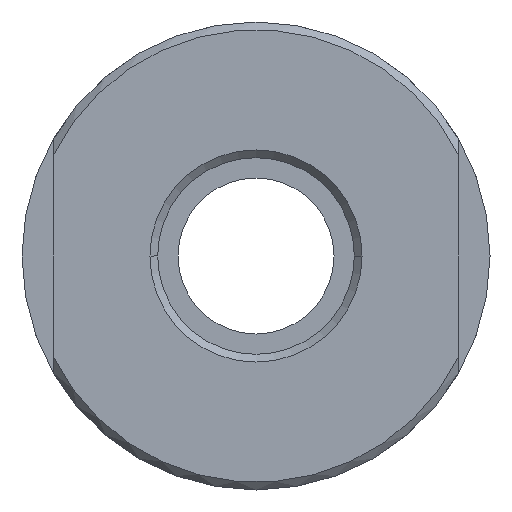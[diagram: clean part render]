
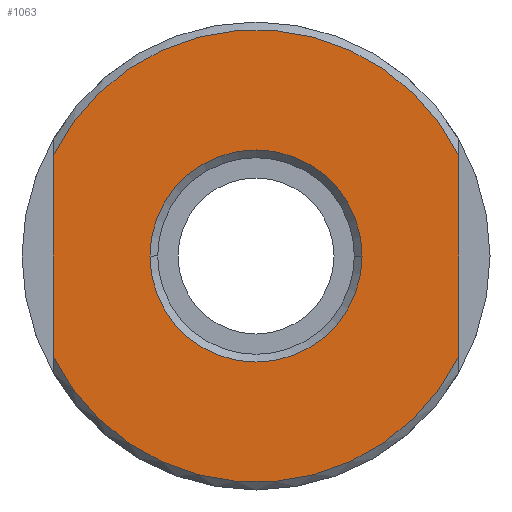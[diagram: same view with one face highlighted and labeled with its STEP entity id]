
A CAD part, left-side view. The second image highlights one B-rep face of the part: STEP entity #1063.
In plain terms, the highlighted planar face has unit normal (-1, 0, 0).
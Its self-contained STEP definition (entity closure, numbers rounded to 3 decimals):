
#82=CARTESIAN_POINT('Vertex',(-6.,13.,-6.423)) ;
#85=CARTESIAN_POINT('Line Origine',(-6.,13.,0.)) ;
#89=CARTESIAN_POINT('Vertex',(-6.,13.,6.423)) ;
#121=CARTESIAN_POINT('Axis2P3D Location',(-6.,0.,0.)) ;
#125=CARTESIAN_POINT('Vertex',(-6.,-13.,6.423)) ;
#167=CARTESIAN_POINT('Line Origine',(-6.,-13.,0.)) ;
#171=CARTESIAN_POINT('Vertex',(-6.,-13.,-6.423)) ;
#937=CARTESIAN_POINT('Axis2P3D Location',(-6.,0.,0.)) ;
#1034=CARTESIAN_POINT('Axis2P3D Location',(-6.,0.,0.)) ;
#1045=CARTESIAN_POINT('Axis2P3D Location',(-6.,0.,0.)) ;
#1049=CARTESIAN_POINT('Vertex',(-6.,-6.8,0.)) ;
#1051=CARTESIAN_POINT('Vertex',(-6.,6.8,0.)) ;
#1054=CARTESIAN_POINT('Axis2P3D Location',(-6.,0.,0.)) ;
#87=VECTOR('Line Direction',#86,1.) ;
#169=VECTOR('Line Direction',#168,1.) ;
#86=DIRECTION('Vector Direction',(0.,0.,-1.)) ;
#122=DIRECTION('Axis2P3D Direction',(-1.,0.,0.)) ;
#168=DIRECTION('Vector Direction',(0.,0.,-1.)) ;
#938=DIRECTION('Axis2P3D Direction',(-1.,0.,0.)) ;
#1035=DIRECTION('Axis2P3D Direction',(-1.,0.,0.)) ;
#1036=DIRECTION('Axis2P3D XDirection',(0.,-1.,0.)) ;
#1046=DIRECTION('Axis2P3D Direction',(-1.,0.,0.)) ;
#1055=DIRECTION('Axis2P3D Direction',(-1.,0.,0.)) ;
#123=AXIS2_PLACEMENT_3D('Circle Axis2P3D',#121,#122,$) ;
#939=AXIS2_PLACEMENT_3D('Circle Axis2P3D',#937,#938,$) ;
#1037=AXIS2_PLACEMENT_3D('Plane Axis2P3D',#1034,#1035,#1036) ;
#1047=AXIS2_PLACEMENT_3D('Circle Axis2P3D',#1045,#1046,$) ;
#1056=AXIS2_PLACEMENT_3D('Circle Axis2P3D',#1054,#1055,$) ;
#88=LINE('Line',#85,#87) ;
#170=LINE('Line',#167,#169) ;
#124=CIRCLE('generated circle',#123,14.5) ;
#940=CIRCLE('generated circle',#939,14.5) ;
#1048=CIRCLE('generated circle',#1047,6.8) ;
#1057=CIRCLE('generated circle',#1056,6.8) ;
#1038=PLANE('',#1037) ;
#1062=FACE_BOUND('',#1059,.T.) ;
#91=EDGE_CURVE('',#90,#83,#88,.T.) ;
#127=EDGE_CURVE('',#126,#90,#124,.T.) ;
#173=EDGE_CURVE('',#126,#172,#170,.T.) ;
#941=EDGE_CURVE('',#83,#172,#940,.T.) ;
#1053=EDGE_CURVE('',#1050,#1052,#1048,.T.) ;
#1058=EDGE_CURVE('',#1052,#1050,#1057,.T.) ;
#1039=EDGE_LOOP('',(#1040,#1041,#1042,#1043)) ;
#1059=EDGE_LOOP('',(#1060,#1061)) ;
#1040=ORIENTED_EDGE('',*,*,#173,.F.) ;
#1041=ORIENTED_EDGE('',*,*,#127,.T.) ;
#1042=ORIENTED_EDGE('',*,*,#91,.T.) ;
#1043=ORIENTED_EDGE('',*,*,#941,.T.) ;
#1060=ORIENTED_EDGE('',*,*,#1053,.F.) ;
#1061=ORIENTED_EDGE('',*,*,#1058,.F.) ;
#83=VERTEX_POINT('',#82) ;
#90=VERTEX_POINT('',#89) ;
#126=VERTEX_POINT('',#125) ;
#172=VERTEX_POINT('',#171) ;
#1050=VERTEX_POINT('',#1049) ;
#1052=VERTEX_POINT('',#1051) ;
#1063=ADVANCED_FACE('Corps principal',(#1044,#1062),#1038,.T.) ;
#1044=FACE_OUTER_BOUND('',#1039,.T.) ;
